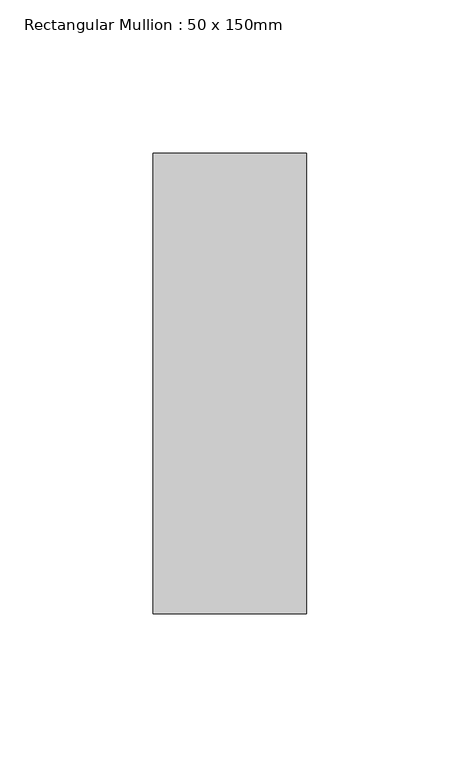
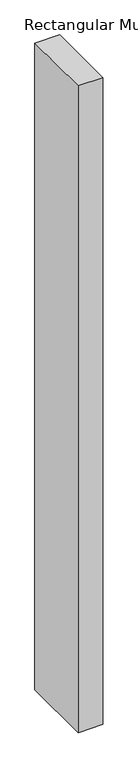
"""IFC4 building model written with IfcOpenShell, lengths in millimetres: member geometry, Rectangular Mullion : 50 x 150mm."""

import ifcopenshell
import ifcopenshell.guid

model = None  # the IFC model being written
_history = None  # IfcOwnerHistory: only IFC2X3 demands one
_inside = {}  # id of a spatial element -> (the spatial element, [elements in it])
_under = {}  # id of a project, library or spatial element -> (it, [spatial elements below it])
_declared = {}  # id of a project -> (the project, [libraries it declares])
_typed = {}  # id of a type object -> (the type object, [elements of that type])
_made_of = {}  # id of a material, layer set ... -> (it, [elements and type objects made of it])


def new_model(schema):
    """Start an empty IFC model of exactly this schema.

    Asked for "IFC4X3", IfcOpenShell would pick the latest addendum, in which some entities
    have other attributes; the version numbers below select the first issue.
    IFC2X3 requires an IfcOwnerHistory on every rooted entity: one is made here for all.
    """
    global model, _history
    if schema == "IFC4X3":
        model = ifcopenshell.file(schema_version=(4, 3, 0, 0))
    else:
        model = ifcopenshell.file(schema=schema)
    _inside.clear()
    _under.clear()
    _declared.clear()
    _typed.clear()
    _made_of.clear()
    _history = None
    if model.schema == "IFC2X3":
        org = make("IfcOrganization", Name="unknown")
        user = make(
            "IfcPersonAndOrganization",
            ThePerson=make("IfcPerson", FamilyName="unknown"),
            TheOrganization=org,
        )
        app = make(
            "IfcApplication",
            ApplicationDeveloper=org,
            Version="unknown",
            ApplicationFullName="unknown",
            ApplicationIdentifier="unknown",
        )
        _history = make(
            "IfcOwnerHistory",
            OwningUser=user,
            OwningApplication=app,
            ChangeAction="ADDED",
            CreationDate=0,
        )
    return model


def make(cls, **values):
    """One entity of the class cls with the attributes given. An attribute that is None is left unset."""
    return model.create_entity(
        cls, **{name: value for name, value in values.items() if value is not None}
    )


def rooted(cls, **values):
    """An entity with a GlobalId (a new one), such as an element, a storey or a relation."""
    return make(cls, GlobalId=ifcopenshell.guid.new(), OwnerHistory=_history, **values)


def si_unit(unit_type, name, prefix=None):
    """IfcSIUnit, for example si_unit("LENGTHUNIT", "METRE", prefix="MILLI")."""
    return make("IfcSIUnit", UnitType=unit_type, Prefix=prefix, Name=name)


def assignment(units):
    """IfcUnitAssignment: the units of a project."""
    return None if units is None else make("IfcUnitAssignment", Units=units)


def point(xyz):
    """IfcCartesianPoint."""
    return None if xyz is None else make("IfcCartesianPoint", Coordinates=xyz)


def direction(xyz):
    """IfcDirection."""
    return None if xyz is None else make("IfcDirection", DirectionRatios=xyz)


def frame(location, z_axis=None, x_axis=None):
    """IfcAxis2Placement3D, a coordinate frame: its origin and axes. An axis left out is left unset."""
    return make(
        "IfcAxis2Placement3D",
        Location=point(location),
        Axis=direction(z_axis),
        RefDirection=direction(x_axis),
    )


def origin():
    """The frame at (0, 0, 0) with its axes left unset."""
    return frame((0.0, 0.0, 0.0))


def place(relative_to, where):
    """IfcLocalPlacement: puts the frame where relative to a parent placement (None: the world)."""
    return make(
        "IfcLocalPlacement", PlacementRelTo=relative_to, RelativePlacement=where
    )


def context(
    kind, dimensions, precision=None, world=None, true_north=None, identifier=None
):
    """IfcGeometricRepresentationContext, for example the 3D "Model" context."""
    return make(
        "IfcGeometricRepresentationContext",
        ContextIdentifier=identifier,
        ContextType=kind,
        CoordinateSpaceDimension=dimensions,
        Precision=precision,
        WorldCoordinateSystem=world,
        TrueNorth=true_north,
    )


def project(units=None, contexts=None):
    """IfcProject with its units and contexts."""
    return rooted(
        "IfcProject",
        Name="project",
        RepresentationContexts=contexts,
        UnitsInContext=assignment(units),
    )


def spatial(cls, under=None, at=None, **own):
    """A site, building, storey or space (cls), placed at a placement, below another one or the project."""
    s = rooted(cls, ObjectPlacement=at, **own)
    if under is not None:
        _under.setdefault(under.id(), (under, []))[1].append(s)
    return s


def polyline(points):
    """IfcPolyline through the points."""
    return make("IfcPolyline", Points=[point(p) for p in points])


def outline(outer, holes=None, kind="AREA"):
    """IfcArbitraryClosedProfileDef: a profile drawn as a closed curve; with holes, ...WithVoids."""
    if holes is None:
        return make("IfcArbitraryClosedProfileDef", ProfileType=kind, OuterCurve=outer)
    return make(
        "IfcArbitraryProfileDefWithVoids",
        ProfileType=kind,
        OuterCurve=outer,
        InnerCurves=holes,
    )


def extrude(swept, where, along, depth):
    """IfcExtrudedAreaSolid: the profile swept, set in the frame where, extruded along a direction by depth."""
    return make(
        "IfcExtrudedAreaSolid",
        SweptArea=swept,
        Position=where,
        ExtrudedDirection=direction(along),
        Depth=depth,
    )


def shape(context_of_items, identifier, shape_type, items):
    """IfcShapeRepresentation: the items that make up one representation, for example the "Body"."""
    return make(
        "IfcShapeRepresentation",
        ContextOfItems=context_of_items,
        RepresentationIdentifier=identifier,
        RepresentationType=shape_type,
        Items=items,
    )


def source(mapping_origin, context_of_items, identifier, shape_type, items):
    """IfcRepresentationMap: a shape defined once, which mapped items show again and again."""
    return make(
        "IfcRepresentationMap",
        MappingOrigin=mapping_origin,
        MappedRepresentation=shape(context_of_items, identifier, shape_type, items),
    )


def transform(
    local_origin,
    x_axis=None,
    y_axis=None,
    z_axis=None,
    scale=None,
    scale2=None,
    scale3=None,
    uniform=True,
):
    """IfcCartesianTransformationOperator3D, or its non-uniform kind. x_axis, y_axis, z_axis: its Axis1, 2, 3."""
    if uniform:
        return make(
            "IfcCartesianTransformationOperator3D",
            Axis1=direction(x_axis),
            Axis2=direction(y_axis),
            LocalOrigin=point(local_origin),
            Scale=scale,
            Axis3=direction(z_axis),
        )
    return make(
        "IfcCartesianTransformationOperator3DnonUniform",
        Axis1=direction(x_axis),
        Axis2=direction(y_axis),
        LocalOrigin=point(local_origin),
        Scale=scale,
        Axis3=direction(z_axis),
        Scale2=scale2,
        Scale3=scale3,
    )


def mapped(mapping_source, mapping_target):
    """IfcMappedItem: shows the shape of a source again, moved by a transform."""
    return make(
        "IfcMappedItem", MappingSource=mapping_source, MappingTarget=mapping_target
    )


def made_of(thing, what):
    """Note that an element or type object is made of a material, layer set ...; save() writes the relation."""
    if what is not None:
        _made_of.setdefault(what.id(), (what, []))[1].append(thing)
    return thing


def element(
    cls,
    number,
    at=None,
    inside=None,
    cuts=None,
    type_object=None,
    material=None,
    context=None,
    identifier="Body",
    shape_type=None,
    held_by="IfcProductDefinitionShape",
    body=None,
    shapes=None,
    **own,
):
    """One element of the class cls, such as IfcWall. Its Tag is "e" and its number.

    at: its placement. inside: the storey or other place that contains it. cuts: it is an
    opening in that element (IfcRelVoidsElement). A single representation is given by context,
    identifier, shape_type and body (its items); several are given by shapes. held_by: the class
    of the entity that holds the representations. save() writes the other relations.
    """
    e = rooted(cls, Tag="e%d" % number, ObjectPlacement=at, **own)
    if body is not None:
        shapes = [shape(context, identifier, shape_type, body)]
    if shapes is not None:
        e.Representation = make(held_by, Representations=shapes)
    if inside is not None:
        _inside.setdefault(inside.id(), (inside, []))[1].append(e)
    if cuts is not None:
        rooted(
            "IfcRelVoidsElement", RelatingBuildingElement=cuts, RelatedOpeningElement=e
        )
    if type_object is not None:
        _typed.setdefault(type_object.id(), (type_object, []))[1].append(e)
    return made_of(e, material)


def aggregate(whole, parts):
    """IfcRelAggregates: a whole, such as a stair, and the parts it consists of."""
    return rooted("IfcRelAggregates", RelatingObject=whole, RelatedObjects=parts)


def save(model, path):
    """Write the relations noted so far, then the file.

    IfcRelAggregates (storeys below a building ...), IfcRelContainedInSpatialStructure (elements
    in a storey), IfcRelDefinesByType, IfcRelAssociatesMaterial and IfcRelDeclares: one each for
    every whole, place, type object, material and project.
    """
    for whole, parts in _under.values():
        aggregate(whole, parts)
    for where, things in _inside.values():
        rooted(
            "IfcRelContainedInSpatialStructure",
            RelatedElements=things,
            RelatingStructure=where,
        )
    for kind, things in _typed.values():
        rooted("IfcRelDefinesByType", RelatedObjects=things, RelatingType=kind)
    for what, things in _made_of.values():
        rooted("IfcRelAssociatesMaterial", RelatedObjects=things, RelatingMaterial=what)
    for by, libraries in _declared.values():
        rooted("IfcRelDeclares", RelatingContext=by, RelatedDefinitions=libraries)
    model.write(path)


def rectangular_mullion_50_x_150mm_c55aa34d(model_context):
    return source(origin(), model_context, "Body", "SweptSolid", [
        extrude(outline(polyline([(0.0, 75.0), (0.0, -75.0), (-50.0, -75.0), (-50.0, 75.0), (0.0, 75.0)])), frame((0.0, 0.0, -1374.7715065), z_axis=(0.0, 0.0, 1.0), x_axis=(1.0, 0.0, 0.0)), (0.0, 0.0, 1.0), 1374.7715065),
    ])


if __name__ == "__main__":
    model = new_model("IFC4")
    model_context = context("Model", 3, world=origin())
    ifc_project = project(units=[si_unit("LENGTHUNIT", "METRE", prefix="MILLI")], contexts=[model_context])
    site = spatial("IfcSite", under=ifc_project)
    building = spatial("IfcBuilding", under=site)
    placement = place(None, origin())
    rectangular_mullion_50_x_150mm_shape = rectangular_mullion_50_x_150mm_c55aa34d(model_context)
    element("IfcMember", 1, ObjectType="Rectangular Mullion : 50 x 150mm", at=placement, inside=building, context=model_context, shape_type="MappedRepresentation", body=[
        mapped(rectangular_mullion_50_x_150mm_shape, transform((0.0, 0.0, 0.0), x_axis=(1.0, 0.0, 0.0), y_axis=(0.0, 1.0, 0.0), z_axis=(0.0, 0.0, 1.0))),
    ])
    save(model, "model.ifc")
